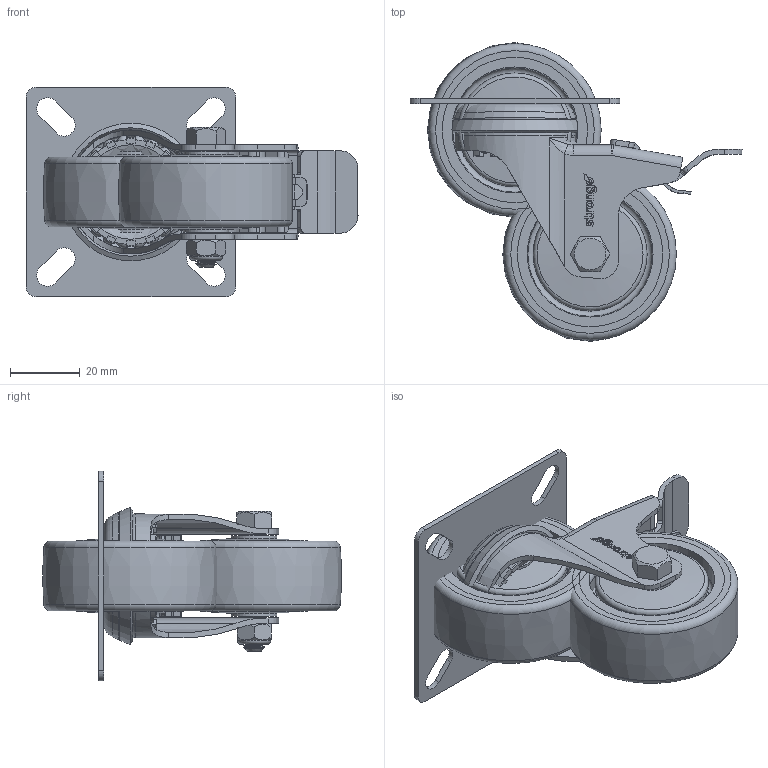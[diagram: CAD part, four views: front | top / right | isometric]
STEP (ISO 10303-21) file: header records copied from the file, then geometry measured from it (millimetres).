
FILE_DESCRIPTION(('STEP AP203'),'1');
FILE_NAME('E:/Pomoc/Strongo/344h39J050rZPC.stp',' ',(' '),(' '),'XStep 1.0',' ',' ');
FILE_SCHEMA(('CONFIG_CONTROL_DESIGN'));
Length unit declared in the file: metre
Products named in the file (3): Assembly85; Assembly96; Next assembly relationship
Bounding box: 94.94 x 85.46 x 60 mm (x, y, z)
Volume: 101025.4 mm3; surface area: 101502.1 mm2
Topology: 124 solids, 124 shells, 2898 faces, 8158 edges, 5372 vertices
Faces by surface type: plane 2152, cylinder 435, torus 125, sphere 104, cone 41, bspline 33, revolution 8
Full cylindrical faces by diameter (mm): 1.038 x4, 2.007 x2, 4 x2, 4.5 x2, 5 x1, 5.75 x2, 6 x17, 6.2 x4, 6.3 x4, 9.8 x2, 10 x6, 10.2 x6, 13 x4, 13.5 x2, 14 x8, 22.4 x4, 23 x4, 23.5 x2, 26 x4, 30.5 x4, 32.5 x6, 35.5 x2, 36.287 x2, 41.6 x4
Entity records: 49237 total; most frequent: CARTESIAN_POINT 12669, ORIENTED_EDGE 7630, DIRECTION 7159, EDGE_CURVE 3815, LINE 3143, VECTOR 3143, VERTEX_POINT 2561, AXIS2_PLACEMENT_3D 2006
